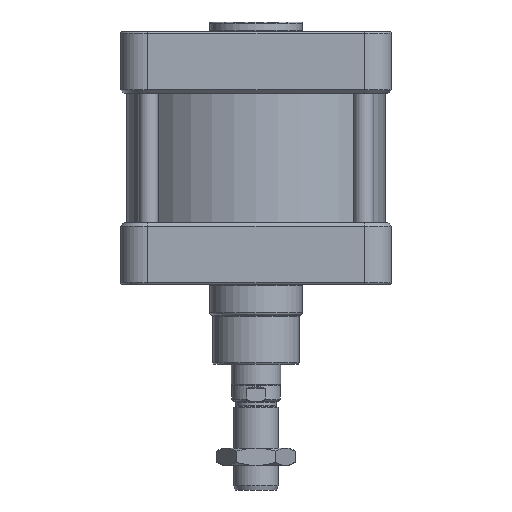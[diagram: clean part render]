
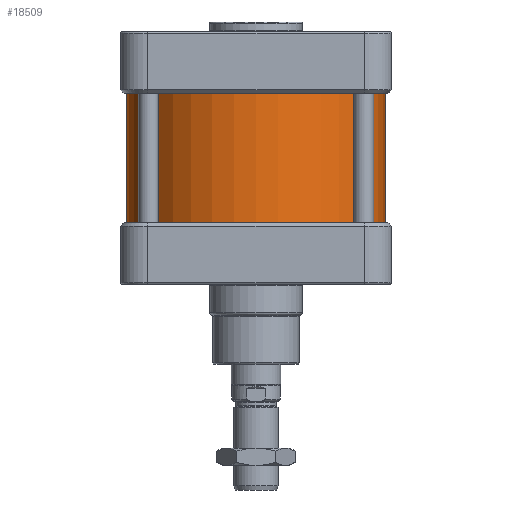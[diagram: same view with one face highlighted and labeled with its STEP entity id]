
A CAD part, front view. The second image highlights one B-rep face of the part: STEP entity #18509.
In plain terms, the highlighted cylindrical face has radius 105 mm (diameter 210 mm), a full revolution.
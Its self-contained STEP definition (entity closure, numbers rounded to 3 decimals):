
#1985=LINE('',#35239,#2997);
#2997=VECTOR('',#30361,1000.);
#4009=ORIENTED_EDGE('',*,*,#9819,.T.);
#4010=ORIENTED_EDGE('',*,*,#9820,.T.);
#4011=ORIENTED_EDGE('',*,*,#9821,.T.);
#4012=ORIENTED_EDGE('',*,*,#9820,.F.);
#9819=EDGE_CURVE('',#12724,#12724,#14523,.T.);
#9820=EDGE_CURVE('',#12724,#12725,#1985,.T.);
#9821=EDGE_CURVE('',#12725,#12725,#14524,.T.);
#12724=VERTEX_POINT('',#35238);
#12725=VERTEX_POINT('',#35240);
#14523=CIRCLE('',#28423,105.);
#14524=CIRCLE('',#28424,105.);
#15352=EDGE_LOOP('',(#4009,#4010,#4011,#4012));
#16734=FACE_BOUND('',#15352,.T.);
#18116=CYLINDRICAL_SURFACE('',#28422,105.);
#18509=ADVANCED_FACE('',(#16734),#18116,.T.);
#28422=AXIS2_PLACEMENT_3D('',#35236,#30357,#30358);
#28423=AXIS2_PLACEMENT_3D('',#35237,#30359,#30360);
#28424=AXIS2_PLACEMENT_3D('',#35241,#30362,#30363);
#30357=DIRECTION('',(0.,1.,0.));
#30358=DIRECTION('',(1.,0.,0.));
#30359=DIRECTION('',(0.,-1.,0.));
#30360=DIRECTION('',(1.,0.,0.));
#30361=DIRECTION('',(0.,-1.,0.));
#30362=DIRECTION('',(0.,1.,0.));
#30363=DIRECTION('',(1.,0.,0.));
#35236=CARTESIAN_POINT('',(0.,0.,0.));
#35237=CARTESIAN_POINT('',(0.,52.5,0.));
#35238=CARTESIAN_POINT('',(-105.,52.5,0.));
#35239=CARTESIAN_POINT('',(-105.,0.,0.));
#35240=CARTESIAN_POINT('',(-105.,-52.5,0.));
#35241=CARTESIAN_POINT('',(0.,-52.5,0.));
